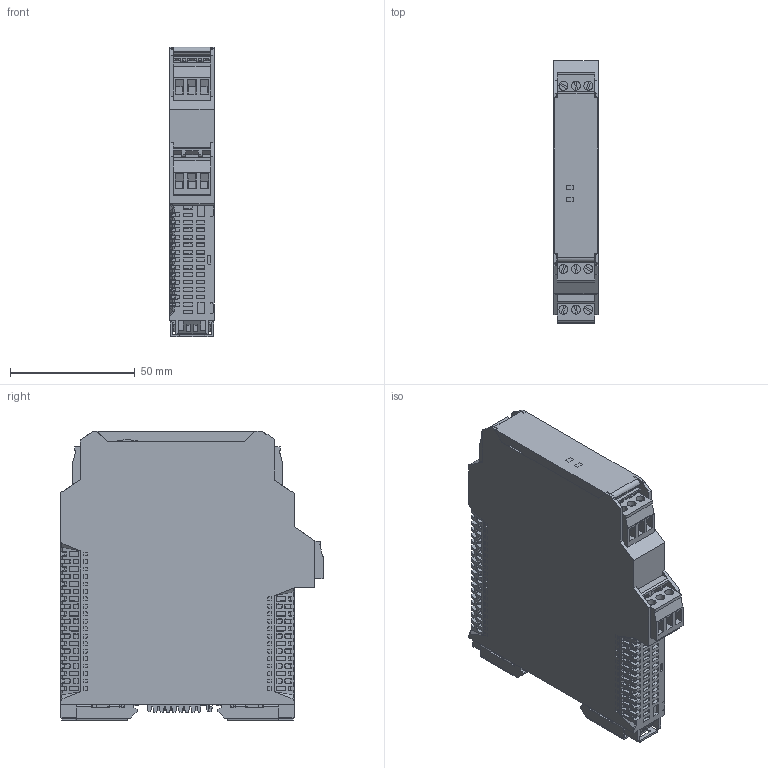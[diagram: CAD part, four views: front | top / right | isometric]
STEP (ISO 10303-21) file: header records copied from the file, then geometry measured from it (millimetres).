
FILE_DESCRIPTION((''),'2;1');
FILE_NAME('D:\ТЗ\Для отдела рекламы\БИГ\БИГ-3-1-11.stp','2024-07-08T10:52:25',('A.V.Dzhibladze'),(''),'Autodesk Inventor 2012','Autodesk Inventor 2012','');
FILE_SCHEMA(('AUTOMOTIVE_DESIGN { 1 2 10303 214 0 1 1 1 }'));
Length unit declared in the file: millimetre
Products named in the file (1): БИГ-3-1-11
Bounding box: 17.71 x 105.23 x 116.35 mm (x, y, z)
Volume: 180532.6 mm3; surface area: 40915.5 mm2
Topology: 5 solids, 10 shells, 3259 faces, 9114 edges, 6010 vertices
Faces by surface type: plane 2508, cylinder 683, bspline 51, sphere 7, torus 6, cone 4
Full cylindrical faces by diameter (mm): 2 x1, 2.05 x2, 3.6 x9
Entity records: 108763 total; most frequent: CARTESIAN_POINT 22008, ORIENTED_EDGE 18148, DIRECTION 16621, EDGE_CURVE 9074, VECTOR 7367, LINE 7367, VERTEX_POINT 5994, AXIS2_PLACEMENT_3D 4627
